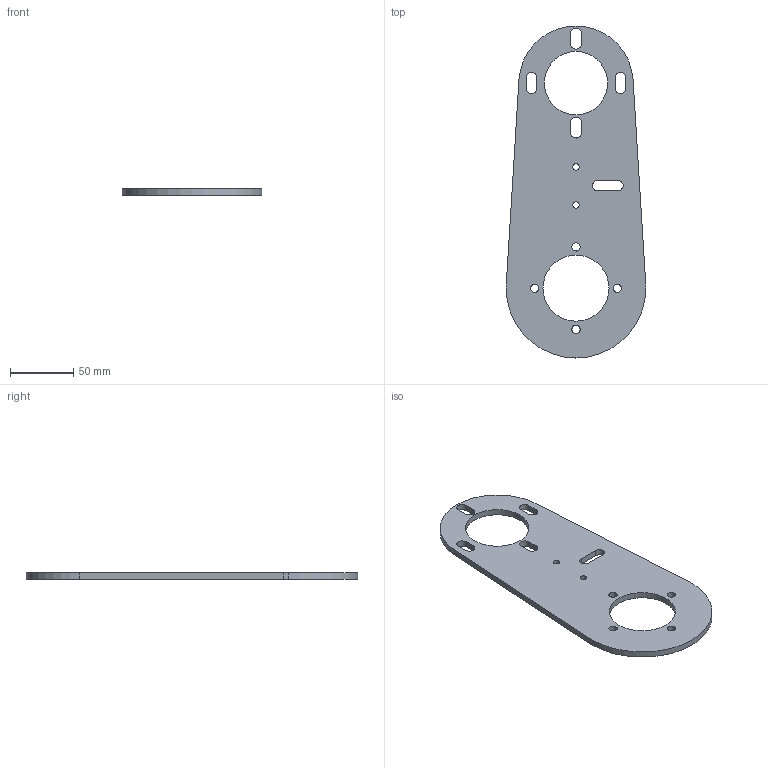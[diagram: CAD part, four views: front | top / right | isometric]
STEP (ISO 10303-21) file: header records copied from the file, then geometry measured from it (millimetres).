
FILE_DESCRIPTION (( 'STEP AP203' ), '1' );
FILE_NAME ('084.809.001.STEP', '2013-01-29T13:05:30', ( 'Alusic' ), ( 'Alusic' ), 'SwSTEP 2.0', 'SolidWorks 2011', '' );
FILE_SCHEMA (( 'CONFIG_CONTROL_DESIGN' ));
Length unit declared in the file: millimetre
Products named in the file (1): 084.809.001
Bounding box: 110 x 261.5 x 5 mm (x, y, z)
Volume: 95856.4 mm3; surface area: 44842 mm2
Topology: 1 solids, 1 shells, 45 faces, 129 edges, 86 vertices
Faces by surface type: cylinder 31, plane 14
Entity records: 1634 total; most frequent: DIRECTION 283, CARTESIAN_POINT 261, ORIENTED_EDGE 258, EDGE_CURVE 129, AXIS2_PLACEMENT_3D 108, VERTEX_POINT 86, EDGE_LOOP 71, LINE 67
